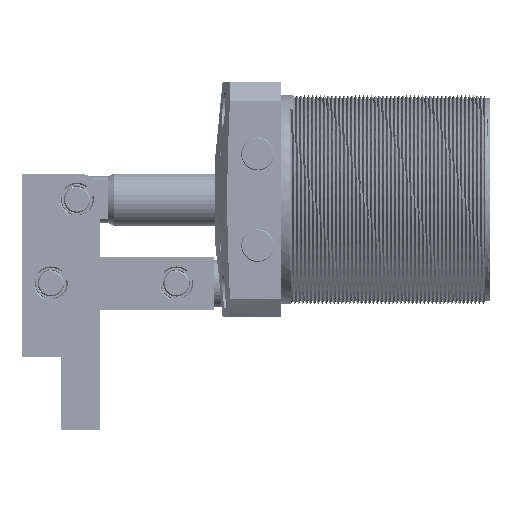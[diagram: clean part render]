
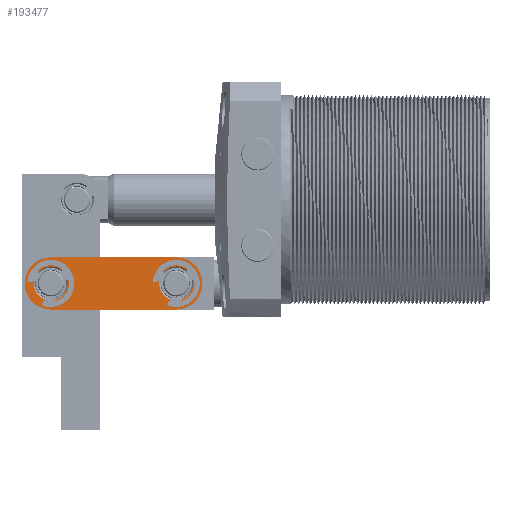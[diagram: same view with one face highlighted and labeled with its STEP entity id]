
A CAD part, left-side view. The second image highlights one B-rep face of the part: STEP entity #193477.
In plain terms, the highlighted planar face has unit normal (-1, 0, 0) as drawn and (0, 0, 1) by its records, which use the part's own axes.
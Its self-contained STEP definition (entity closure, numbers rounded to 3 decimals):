
#2441 = VERTEX_POINT ( 'NONE', #32818 ) ;
#4802 = CARTESIAN_POINT ( 'NONE',  ( 0., -24., 6. ) ) ;
#4900 = EDGE_CURVE ( 'NONE', #139995, #102087, #119376, .T. ) ;
#10647 = AXIS2_PLACEMENT_3D ( 'NONE', #56505, #56272, #56020 ) ;
#16707 = EDGE_CURVE ( 'NONE', #203496, #75597, #67822, .T. ) ;
#17984 = DIRECTION ( 'NONE',  ( 0., 0., -1. ) ) ;
#20331 = DIRECTION ( 'NONE',  ( 1., 0., 0. ) ) ;
#20762 = DIRECTION ( 'NONE',  ( 1., 0., 0. ) ) ;
#23465 = EDGE_CURVE ( 'NONE', #65161, #139995, #45377, .T. ) ;
#25189 = ORIENTED_EDGE ( 'NONE', *, *, #23465, .T. ) ;
#26399 = FACE_BOUND ( 'NONE', #83207, .T. ) ;
#29496 = CARTESIAN_POINT ( 'NONE',  ( 10., 24., 6. ) ) ;
#32818 = CARTESIAN_POINT ( 'NONE',  ( 0., -17.5, 6. ) ) ;
#34676 = AXIS2_PLACEMENT_3D ( 'NONE', #108152, #107967, #107910 ) ;
#34811 = VERTEX_POINT ( 'NONE', #168846 ) ;
#38678 = ORIENTED_EDGE ( 'NONE', *, *, #159876, .T. ) ;
#38771 = ORIENTED_EDGE ( 'NONE', *, *, #16707, .T. ) ;
#41646 = AXIS2_PLACEMENT_3D ( 'NONE', #162855, #115870, #20331 ) ;
#44766 = ORIENTED_EDGE ( 'NONE', *, *, #4900, .T. ) ;
#45377 = CIRCLE ( 'NONE', #34676, 10. ) ;
#48530 = CARTESIAN_POINT ( 'NONE',  ( 6.5, 24., 6. ) ) ;
#49234 = CARTESIAN_POINT ( 'NONE',  ( 0., -24., 6. ) ) ;
#56020 = DIRECTION ( 'NONE',  ( 1., 0., 0. ) ) ;
#56272 = DIRECTION ( 'NONE',  ( 0., 0., -1. ) ) ;
#56505 = CARTESIAN_POINT ( 'NONE',  ( 0., 24., 6. ) ) ;
#61037 = EDGE_LOOP ( 'NONE', ( #38678, #38771 ) ) ;
#64813 = DIRECTION ( 'NONE',  ( 0., 1., 0. ) ) ;
#65161 = VERTEX_POINT ( 'NONE', #29496 ) ;
#65264 = DIRECTION ( 'NONE',  ( 0., -1., 0. ) ) ;
#66199 = CARTESIAN_POINT ( 'NONE',  ( 10., 0., 6. ) ) ;
#66755 = EDGE_LOOP ( 'NONE', ( #128200, #25189, #44766, #123015 ) ) ;
#67822 = CIRCLE ( 'NONE', #10647, 6.5 ) ;
#70250 = CARTESIAN_POINT ( 'NONE',  ( 0., 24., 6. ) ) ;
#71791 = ORIENTED_EDGE ( 'NONE', *, *, #94884, .T. ) ;
#75597 = VERTEX_POINT ( 'NONE', #48530 ) ;
#79341 = CIRCLE ( 'NONE', #162940, 10. ) ;
#83207 = EDGE_LOOP ( 'NONE', ( #71791, #138362 ) ) ;
#85392 = AXIS2_PLACEMENT_3D ( 'NONE', #113513, #17984, #129457 ) ;
#86365 = DIRECTION ( 'NONE',  ( 1., 0., 0. ) ) ;
#87606 = EDGE_CURVE ( 'NONE', #125848, #65161, #190610, .T. ) ;
#94884 = EDGE_CURVE ( 'NONE', #34811, #2441, #160669, .T. ) ;
#101335 = CARTESIAN_POINT ( 'NONE',  ( -10., 24., 6. ) ) ;
#102087 = VERTEX_POINT ( 'NONE', #170284 ) ;
#106224 = FACE_OUTER_BOUND ( 'NONE', #66755, .T. ) ;
#107910 = DIRECTION ( 'NONE',  ( 1., 0., 0. ) ) ;
#107967 = DIRECTION ( 'NONE',  ( 0., 0., 1. ) ) ;
#107988 = CIRCLE ( 'NONE', #133297, 6.5 ) ;
#108152 = CARTESIAN_POINT ( 'NONE',  ( 0., 24., 6. ) ) ;
#113513 = CARTESIAN_POINT ( 'NONE',  ( 0., -24., 6. ) ) ;
#115706 = EDGE_CURVE ( 'NONE', #102087, #125848, #79341, .T. ) ;
#115870 = DIRECTION ( 'NONE',  ( 0., 0., 1. ) ) ;
#116303 = DIRECTION ( 'NONE',  ( 0., 0., 1. ) ) ;
#119376 = LINE ( 'NONE', #144522, #121697 ) ;
#121697 = VECTOR ( 'NONE', #141785, 1000. ) ;
#123015 = ORIENTED_EDGE ( 'NONE', *, *, #115706, .T. ) ;
#125848 = VERTEX_POINT ( 'NONE', #132123 ) ;
#128200 = ORIENTED_EDGE ( 'NONE', *, *, #87606, .T. ) ;
#129457 = DIRECTION ( 'NONE',  ( 0., -1., 0. ) ) ;
#132123 = CARTESIAN_POINT ( 'NONE',  ( 10., -24., 6. ) ) ;
#133297 = AXIS2_PLACEMENT_3D ( 'NONE', #70250, #181348, #86365 ) ;
#138362 = ORIENTED_EDGE ( 'NONE', *, *, #169876, .T. ) ;
#139995 = VERTEX_POINT ( 'NONE', #101335 ) ;
#141785 = DIRECTION ( 'NONE',  ( 0., -1., 0. ) ) ;
#144522 = CARTESIAN_POINT ( 'NONE',  ( -10., 0., 6. ) ) ;
#147756 = CARTESIAN_POINT ( 'NONE',  ( -6.5, 24., 6. ) ) ;
#148437 = FACE_BOUND ( 'NONE', #61037, .T. ) ;
#159876 = EDGE_CURVE ( 'NONE', #75597, #203496, #107988, .T. ) ;
#160564 = DIRECTION ( 'NONE',  ( 0., 0., -1. ) ) ;
#160669 = CIRCLE ( 'NONE', #85392, 6.5 ) ;
#162855 = CARTESIAN_POINT ( 'NONE',  ( 0., 0., 6. ) ) ;
#162940 = AXIS2_PLACEMENT_3D ( 'NONE', #4802, #116303, #20762 ) ;
#168846 = CARTESIAN_POINT ( 'NONE',  ( 0., -30.5, 6. ) ) ;
#169876 = EDGE_CURVE ( 'NONE', #2441, #34811, #189200, .T. ) ;
#170284 = CARTESIAN_POINT ( 'NONE',  ( -10., -24., 6. ) ) ;
#178770 = PLANE ( 'NONE',  #41646 ) ;
#181348 = DIRECTION ( 'NONE',  ( 0., 0., -1. ) ) ;
#189200 = CIRCLE ( 'NONE', #202214, 6.5 ) ;
#190018 = VECTOR ( 'NONE', #64813, 1000. ) ;
#190610 = LINE ( 'NONE', #66199, #190018 ) ;
#193477 = ADVANCED_FACE ( 'NONE', ( #26399, #148437, #106224 ), #178770, .T. ) ;
#202214 = AXIS2_PLACEMENT_3D ( 'NONE', #49234, #160564, #65264 ) ;
#203496 = VERTEX_POINT ( 'NONE', #147756 ) ;
